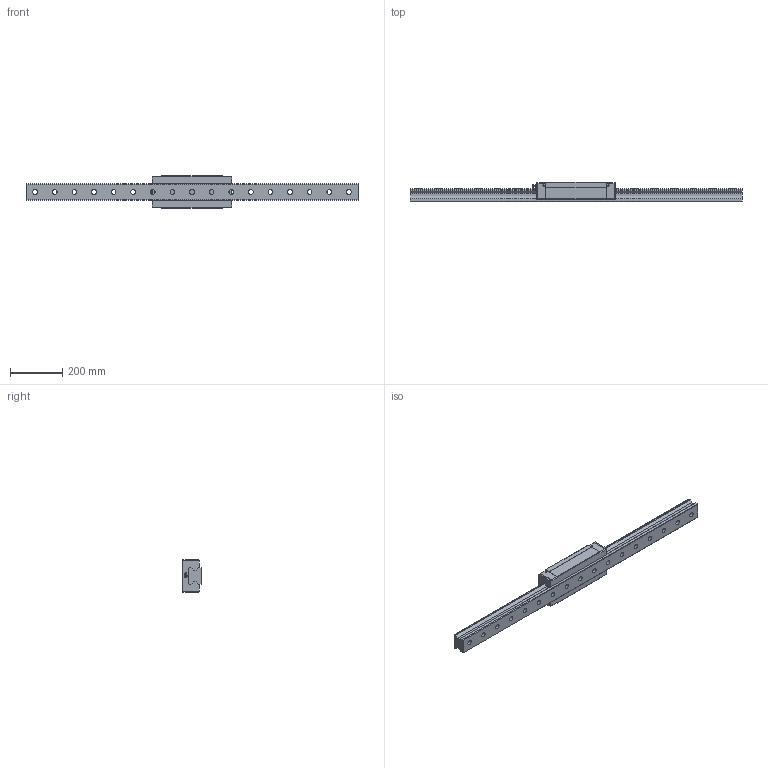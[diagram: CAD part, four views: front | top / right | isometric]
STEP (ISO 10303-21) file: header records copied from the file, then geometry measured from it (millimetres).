
FILE_DESCRIPTION(/* description */ ('STEP AP203'),/* implementation_level */ '2;1');
FILE_NAME(/* name */ 'SRN65LR1SS-1270L_G35_0_B-PT18_483-5_0_0_0_1',/* time_stamp */ '2024-05-23T10:58:04+02:00',/* author */ ('License CC BY-ND 4.0'),/* organization */ ('CADENAS'),/* preprocessor_version */ 'ST-DEVELOPER v19.3',/* originating_system */ 'PARTsolutions',/* authorisation */ ' ');
FILE_SCHEMA (('CONFIG_CONTROL_DESIGN'));
Length unit declared in the file: millimetre
Products named in the file (4): SRN65LR1SS-1270L_G35_0_B-PT18_483-5_0_0_0_1; SRN65LR127035 Track; SRN65LRSSB-PT1/81 Slide35-65; B-PT1/8-SRN_grease_nipple_joint
Assembly tree (3 placements, depth 2):
  SRN65LR1SS-1270L_G35_0_B-PT18_483-5_0_0_0_1
    SRN65LR127035 Track
    SRN65LRSSB-PT1/81 Slide35-65
    B-PT1/8-SRN_grease_nipple_joint
Bounding box: 1270 x 75 x 126 mm (x, y, z)
Volume: 4918479.7 mm3; surface area: 513572.4 mm2
Topology: 3 solids, 3 shells, 210 faces, 520 edges, 339 vertices
Faces by surface type: plane 132, cylinder 49, cone 24, torus 3, sphere 2
Full cylindrical faces by diameter (mm): 5.2 x4, 9.6 x1, 13.835 x6, 18 x17, 26 x17
Entity records: 5954 total; most frequent: CARTESIAN_POINT 1105, DIRECTION 956, ORIENTED_EDGE 862, EDGE_CURVE 431, FACE_BOUND 349, EDGE_LOOP 341, AXIS2_PLACEMENT_3D 338, VERTEX_POINT 332
